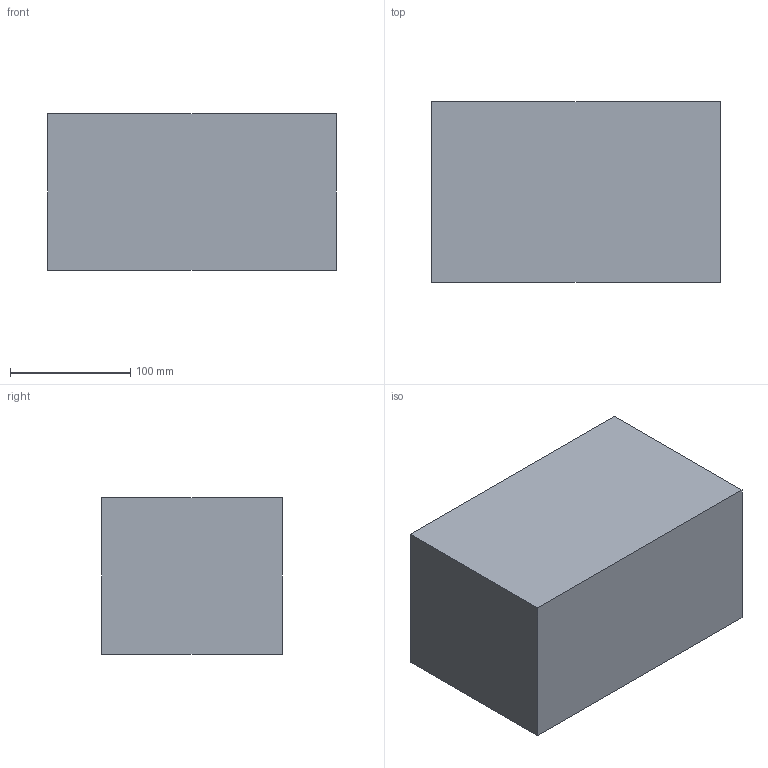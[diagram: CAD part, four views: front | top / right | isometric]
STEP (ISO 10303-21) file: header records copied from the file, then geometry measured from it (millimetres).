
FILE_DESCRIPTION(('Open CASCADE Model'),'2;1');
FILE_NAME('Open CASCADE Shape Model','2026-10-16T18:52:00',('Author'),( 'Open CASCADE'),'Open CASCADE STEP processor 7.8','Open CASCADE 7.8' ,'Unknown');
FILE_SCHEMA(('AUTOMOTIVE_DESIGN { 1 0 10303 214 1 1 1 1 }'));
Length unit declared in the file: millimetre
Products named in the file (1): Open CASCADE STEP translator 7.8 69
Bounding box: 240 x 150 x 130 mm (x, y, z)
Volume: 4680000 mm3; surface area: 173400 mm2
Topology: 1 solids, 1 shells, 6 faces, 12 edges, 8 vertices
Faces by surface type: plane 6
Entity records: 322 total; most frequent: CARTESIAN_POINT 51, DIRECTION 50, LINE 36, VECTOR 36, ORIENTED_EDGE 24, PCURVE 24, DEFINITIONAL_REPRESENTATION 24, EDGE_CURVE 12
